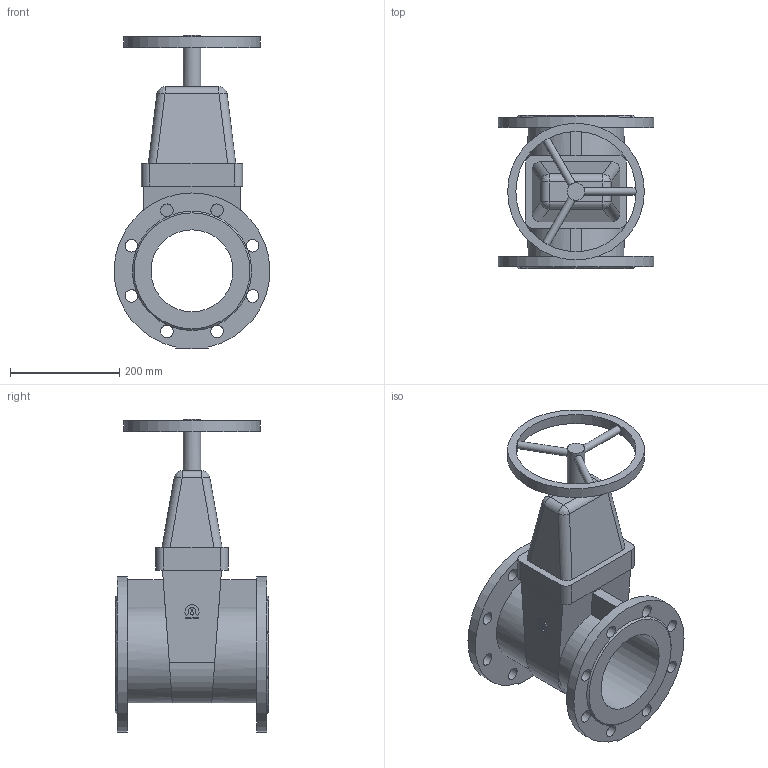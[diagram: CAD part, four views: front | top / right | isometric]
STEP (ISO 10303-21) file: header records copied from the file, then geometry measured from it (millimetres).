
FILE_DESCRIPTION(('STEP AP203'), '1');
FILE_NAME('Çàäâèæêà 47GV DN150 PN10_PN16_L280 ñ ìàõîâèêîì', '', ('UNSPECIFIED'), ('UNSPECIFIED'), 'ASCON STEP Converter 1.6', 'ASCON Math Kernel', '');
FILE_SCHEMA(('CONFIG_CONTROL_DESIGN'));
Length unit declared in the file: millimetre
Bounding box: 284.94 x 280 x 573.5 mm (x, y, z)
Volume: 8102152.9 mm3; surface area: 702980.8 mm2
Topology: 1 solids, 1 shells, 105 faces, 307 edges, 196 vertices
Faces by surface type: plane 51, cylinder 48, bspline 4, cone 2
Full cylindrical faces by diameter (mm): 14 x3, 23 x16, 32 x1, 150 x1, 220 x1, 250 x1
Entity records: 5846 total; most frequent: CARTESIAN_POINT 2226, DIRECTION 560, ORIENTED_EDGE 556, EDGE_CURVE 278, AXIS2_PLACEMENT_3D 218, VERTEX_POINT 196, EDGE_LOOP 166, FACE_BOUND 134
